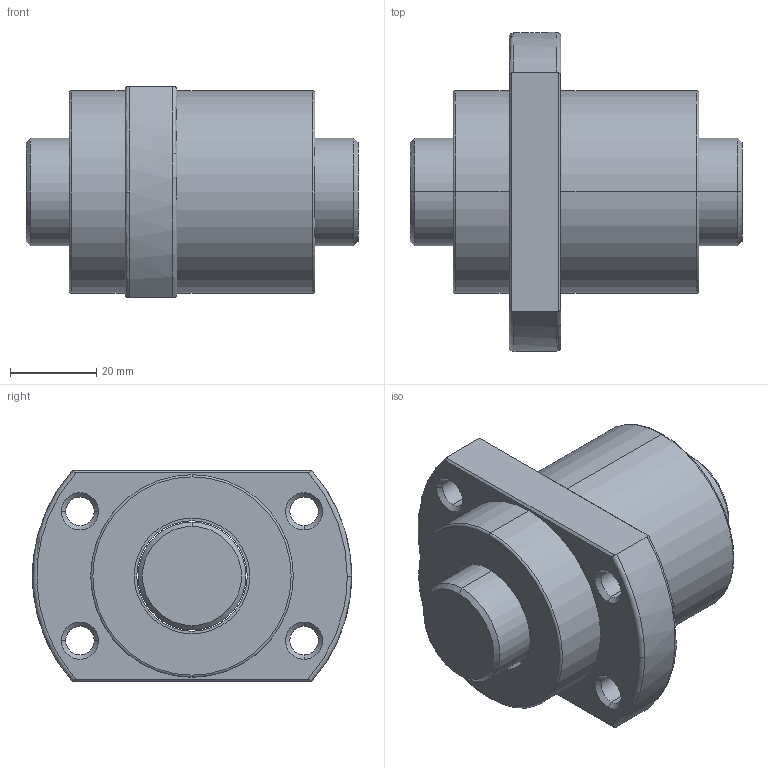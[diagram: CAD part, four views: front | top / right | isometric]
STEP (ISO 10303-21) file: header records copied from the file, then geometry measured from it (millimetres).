
FILE_DESCRIPTION (( 'STEP AP203' ), '1' );
FILE_NAME ('SFTER02525A2D-C.STEP', '2020-06-18T01:56:52', ( '' ), ( '' ), 'SwSTEP 2.0', 'SolidWorks 2013', '' );
FILE_SCHEMA (( 'CONFIG_CONTROL_DESIGN' ));
Length unit declared in the file: millimetre
Products named in the file (1): SFTER02525A2D-C
Bounding box: 77 x 74 x 49 mm (x, y, z)
Volume: 121522.1 mm3; surface area: 27900.6 mm2
Topology: 2 solids, 4 shells, 90 faces, 206 edges, 132 vertices
Faces by surface type: cylinder 40, plane 22, cone 18, torus 10
Entity records: 3042 total; most frequent: CARTESIAN_POINT 846, DIRECTION 474, ORIENTED_EDGE 412, EDGE_CURVE 206, AXIS2_PLACEMENT_3D 203, VERTEX_POINT 132, EDGE_LOOP 114, CIRCLE 112
